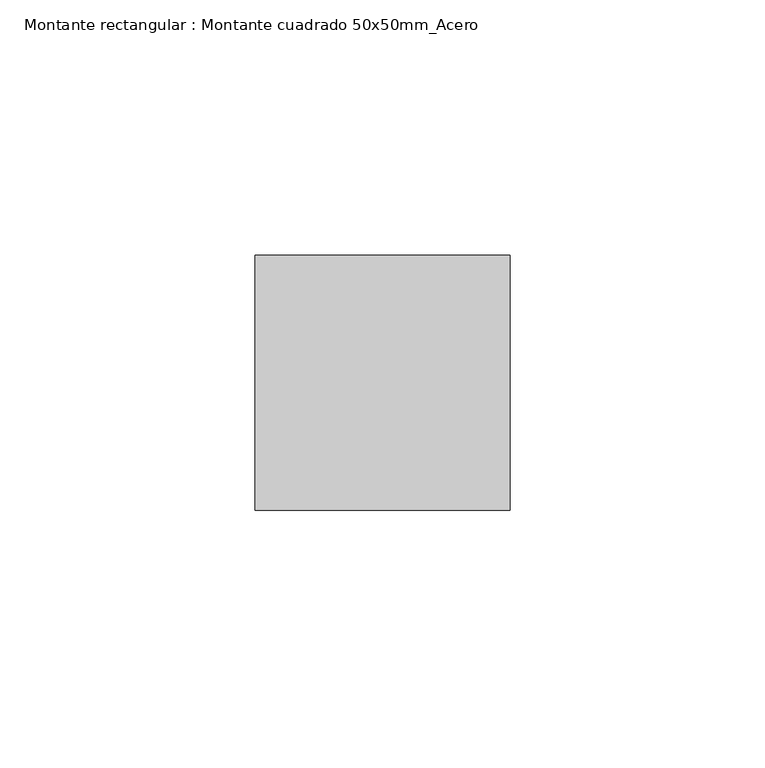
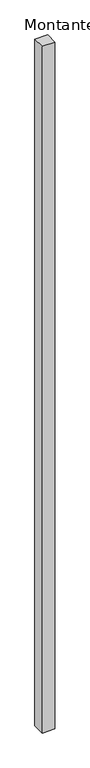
"""IFC4 building model written with IfcOpenShell, lengths in millimetres: member geometry, Montante rectangular : Montante cuadrado 50x50mm_Acero."""

from ifc_helpers import new_model, si_unit, frame, origin, place, context, project, spatial, polyline, outline, extrude, source, transform, mapped, element, save


def montante_rectangular_montante_cuadrado_50x50mm_acero_891b7284(model_context):
    return source(origin(), model_context, "Body", "SweptSolid", [
        extrude(outline(polyline([(-50.0, 0.0), (-50.0, 50.0), (0.0, 50.0), (0.0, 0.0), (-50.0, 0.0)])), frame((0.0, 0.0, -2875.0), z_axis=(0.0, 0.0, 1.0), x_axis=(1.0, 0.0, 0.0)), (0.0, 0.0, 1.0), 2875.0),
    ])


if __name__ == "__main__":
    model = new_model("IFC4")
    model_context = context("Model", 3, world=origin())
    ifc_project = project(units=[si_unit("LENGTHUNIT", "METRE", prefix="MILLI")], contexts=[model_context])
    site = spatial("IfcSite", under=ifc_project)
    building = spatial("IfcBuilding", under=site)
    placement = place(None, origin())
    montante_rectangular_montante_cuadrado_50x50mm_acero_shape = montante_rectangular_montante_cuadrado_50x50mm_acero_891b7284(model_context)
    element("IfcMember", 1, ObjectType="Montante rectangular : Montante cuadrado 50x50mm_Acero", at=placement, inside=building, context=model_context, shape_type="MappedRepresentation", body=[
        mapped(montante_rectangular_montante_cuadrado_50x50mm_acero_shape, transform((0.0, 0.0, 0.0), x_axis=(1.0, 0.0, 0.0), y_axis=(0.0, 1.0, 0.0), z_axis=(0.0, 0.0, 1.0))),
    ])
    save(model, "model.ifc")
